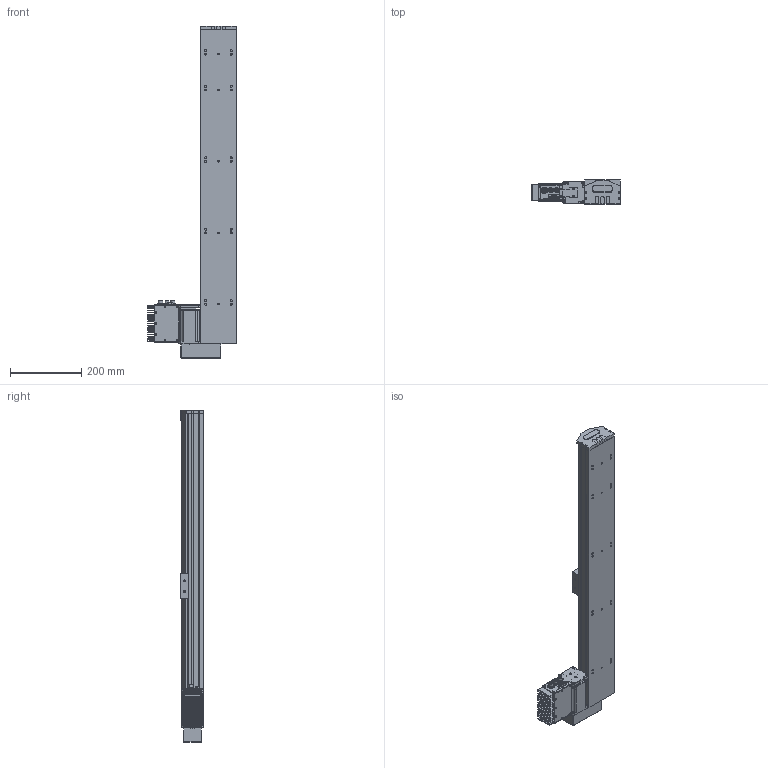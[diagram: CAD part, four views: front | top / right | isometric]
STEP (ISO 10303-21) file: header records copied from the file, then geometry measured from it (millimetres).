
FILE_DESCRIPTION (( 'STEP AP203' ), '1' );
FILE_NAME ('S10 TSN BL S700.STEP', '2012-09-03T09:21:02', ( 'Conseil Régional Haute-Normandie' ), ( 'Conseil Régional Haute-Normandie' ), 'SwSTEP 2.0', 'SolidWorks 2010', '' );
FILE_SCHEMA (( 'CONFIG_CONTROL_DESIGN' ));
Length unit declared in the file: millimetre
Products named in the file (25): Colonnette ronde_3; T_X2_00F4_X0_le contre le moteur_5; Couvercle_3; Connecteur rond D10 3cts_5; T_X2_00F4_X0_le fond_3; T_X2_00F4_X0_le Arri_X2_00E8_X0_re_5; T_X2_00F4_X0_le lat_X2_00E9_X0_rale_5; piece_plastique remplie_Default; remplir_Default; embout_modifié; S10 TSN BL  S700; Assem1_7; BU41 Carte Alimentation P05_3; Colonnette_3; BU45 Carte d''axe A11_5; Moteur 60BLDC90A_3; Connecteur rond D12 4cts_5; Sub D 9cts 90_X2_00B_X0__3; Radiateur profil_X2_00E9_X0_ 100x25_3; Vis TF 3 torkx_1_1; palette tbn; axe887; renvoi LH_Default; Pièce2_Default; Vis TF 3 torkx
Assembly tree (55 placements, depth 3):
  S10 TSN BL  S700
    renvoi LH_Default
    Vis TF 3 torkx  x7
    palette tbn
    axe887
    Assem1_7
      Vis TF 3 torkx_1_1  x21
      Radiateur profil_X2_00E9_X0_ 100x25_3
      Colonnette ronde_3
      Sub D 9cts 90_X2_00B_X0__3
      BU41 Carte Alimentation P05_3
      T_X2_00F4_X0_le fond_3
      T_X2_00F4_X0_le lat_X2_00E9_X0_rale_5  x2
      Colonnette_3  x2
      Moteur 60BLDC90A_3
      Connecteur rond D10 3cts_5  x2
      BU45 Carte d''axe A11_5
      T_X2_00F4_X0_le Arri_X2_00E8_X0_re_5
      T_X2_00F4_X0_le contre le moteur_5
      Couvercle_3
      Connecteur rond D12 4cts_5
    piece_plastique remplie_Default
      remplir_Default  x3
      embout_modifié
      Pièce2_Default
Bounding box: 248 x 66.75 x 929.5 mm (x, y, z)
Volume: 5280562.9 mm3; surface area: 689701.4 mm2
Topology: 53 solids, 53 shells, 1969 faces, 5010 edges, 3266 vertices
Faces by surface type: plane 927, cylinder 879, cone 156, bspline 4, torus 3
Entity records: 38755 total; most frequent: CARTESIAN_POINT 6545, DIRECTION 6307, ORIENTED_EDGE 5728, EDGE_CURVE 2864, AXIS2_PLACEMENT_3D 2317, VERTEX_POINT 1878, VECTOR 1673, LINE 1673
